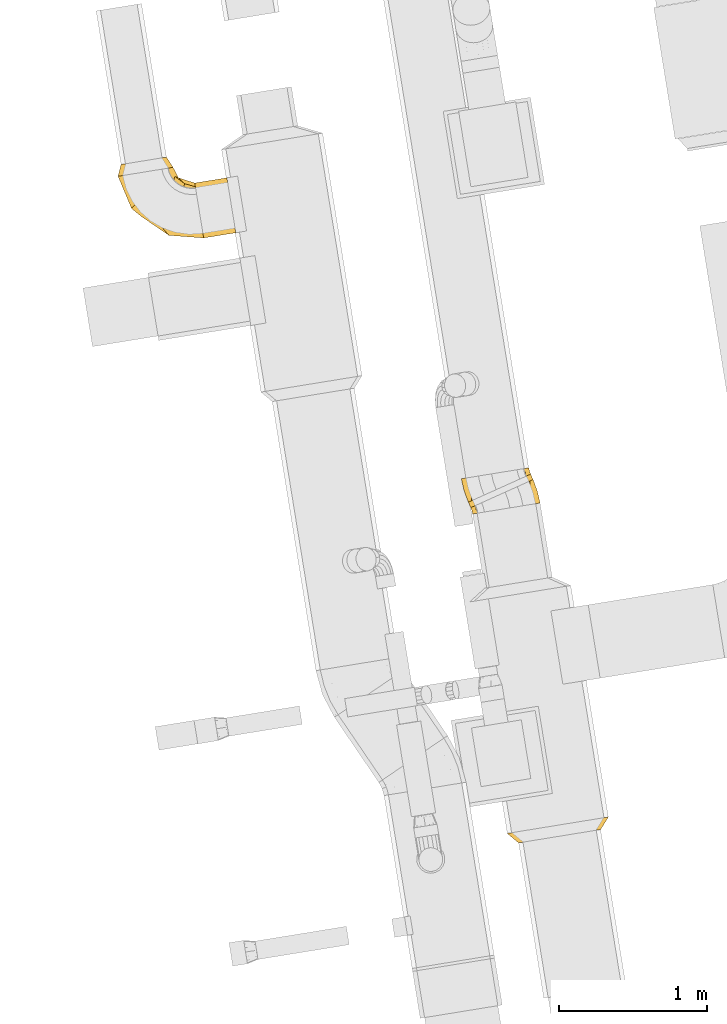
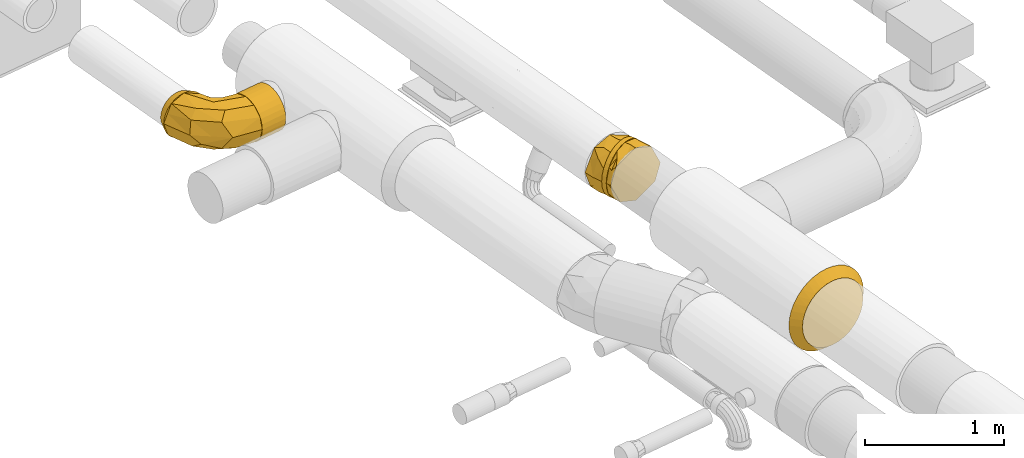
# One storey, part 10 of 39: 7 coverings.
"""IFC2X3 building model written with IfcOpenShell, lengths in millimetres."""

from ifc_helpers import new_model, entity, si_unit, converted_unit, derived_unit, direction, frame, origin, origin_with_axes, place, context, subcontext, project, spatial, faceted_brep, type_object, element, save


model = new_model("IFC2X3")

# Units and contexts
plan_context = context("Plan", 3, precision=1e-05, world=origin_with_axes())
model_context = context("Model", 3, precision=0.01, world=origin(), true_north=direction((6.12323399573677e-17, 1.0)))
body_context = subcontext(model_context, "Body", "Model", "MODEL_VIEW")
ifc_project = project(units=[converted_unit("PLANEANGLEUNIT", "DEGREE", entity("IfcPositiveLengthMeasure", 0.0174532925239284), si_unit("PLANEANGLEUNIT", "RADIAN"), dimensions=[0, 0, 0, 0, 0, 0, 0]), si_unit("AREAUNIT", "SQUARE_METRE"), si_unit("LENGTHUNIT", "METRE", prefix="MILLI"), si_unit("MASSUNIT", "GRAM", prefix="KILO"), si_unit("POWERUNIT", "WATT"), si_unit("PRESSUREUNIT", "PASCAL", prefix="KILO"), si_unit("FORCEUNIT", "NEWTON", prefix="KILO"), si_unit("ELECTRICVOLTAGEUNIT", "VOLT"), si_unit("ELECTRICCURRENTUNIT", "AMPERE"), si_unit("THERMODYNAMICTEMPERATUREUNIT", "DEGREE_CELSIUS"), si_unit("TIMEUNIT", "SECOND"), si_unit("VOLUMEUNIT", "CUBIC_METRE"), derived_unit("LINEARVELOCITYUNIT", [(si_unit("LENGTHUNIT", "METRE"), 1), (si_unit("TIMEUNIT", "SECOND"), -1)]), derived_unit("VOLUMETRICFLOWRATEUNIT", [(si_unit("VOLUMEUNIT", "CUBIC_METRE"), 1), (si_unit("TIMEUNIT", "SECOND"), -1)]), derived_unit("THERMALTRANSMITTANCEUNIT", [(si_unit("POWERUNIT", "WATT"), 1), (si_unit("THERMODYNAMICTEMPERATUREUNIT", "KELVIN"), -1), (si_unit("AREAUNIT", "SQUARE_METRE"), -1)]), derived_unit("SOUNDPRESSUREUNIT", [(si_unit("PRESSUREUNIT", "PASCAL"), 1)])], contexts=[model_context, plan_context])

# Site, building, storey
site_placement = place(None, frame((-0.00071070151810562, 0.00438415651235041, 0.0), z_axis=(0.0, 0.0, 1.0), x_axis=(-0.160236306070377, 0.987078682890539, 0.0)))
site = spatial("IfcSite", under=ifc_project, at=site_placement, Name="Default", CompositionType="ELEMENT")
building_placement = place(site_placement, origin_with_axes())
building = spatial("IfcBuilding", under=site, at=building_placement, CompositionType="ELEMENT")
storey_placement = place(building_placement, frame((0.0, 0.0, 58999.9999999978), z_axis=(0.0, 0.0, 1.0), x_axis=(1.0, 0.0, 0.0)))
storey = spatial("IfcBuildingStorey", under=building, at=storey_placement, Name="Nivå F", CompositionType="ELEMENT", Elevation=58999.9999999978)

# Coverings
covering_type_1 = type_object("IfcCoveringType", Name="Duct Insulation:MuT030", PredefinedType="INSULATION")
covering_1_placement = place(storey_placement, frame((772049.369644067, -503686.603887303, 2783.40426923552), z_axis=(0.0, 0.0, 1.0), x_axis=(1.0, 0.0, 0.0)))
element("IfcCovering", 1, at=covering_1_placement, inside=storey, type_object=covering_type_1, Name="Duct Insulation:MuT030", ObjectType="Duct Insulation:MuT030", PredefinedType="INSULATION", context=body_context, shape_type="Brep", body=[
    faceted_brep([(75.0, 406.503893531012, 686.353947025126), (75.0, 346.595272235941, 691.595272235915), (75.0, 286.686650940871, 686.353947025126), (75.0, 228.598322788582, 670.789226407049), (75.0, 174.095272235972, 645.374036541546), (75.0, 124.833546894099, 610.880605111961), (75.0, 82.3099393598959, 568.356997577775), (75.0, 47.8165079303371, 519.09527223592), (75.0, 22.4013180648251, 464.592221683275), (75.0, 6.83659744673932, 406.503893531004), (75.0, 1.59527223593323, 346.595272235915), (75.0, 6.83659744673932, 286.686650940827), (75.0, 22.4013180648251, 228.598322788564), (75.0, 47.8165079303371, 174.09527223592), (75.0, 82.3099393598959, 124.833546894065), (75.0, 124.833546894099, 82.3099393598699), (75.0, 174.095272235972, 47.8165079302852), (75.0, 228.598322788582, 22.4013180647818), (75.0, 286.686650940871, 6.83659744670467), (75.0, 346.595272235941, 1.5952722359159), (75.0, 406.503893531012, 6.83659744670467), (75.0, 464.592221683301, 22.4013180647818), (75.0, 519.095272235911, 47.8165079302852), (75.0, 568.356997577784, 82.3099393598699), (75.0, 610.880605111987, 124.833546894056), (75.0, 645.374036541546, 174.09527223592), (75.0, 670.789226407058, 228.598322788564), (75.0, 686.353947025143, 286.686650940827), (75.0, 691.59527223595, 346.595272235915), (75.0, 686.353947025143, 406.503893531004), (75.0, 670.789226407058, 464.592221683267), (75.0, 645.374036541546, 519.095272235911), (75.0, 610.880605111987, 568.356997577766), (75.0, 568.356997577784, 610.880605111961), (75.0, 519.095272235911, 645.374036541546), (75.0, 464.592221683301, 670.789226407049), (0.0, 453.746633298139, 605.28154133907), (0.0, 502.154937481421, 579.406763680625), (0.0, 544.585170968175, 544.585170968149), (0.0, 579.406763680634, 502.154937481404), (0.0, 605.281541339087, 453.746633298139), (0.0, 621.215150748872, 401.220562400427), (0.0, 626.595272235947, 346.595272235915), (0.0, 621.215150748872, 291.969982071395), (0.0, 605.281541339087, 239.443911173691), (0.0, 579.406763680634, 191.035606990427), (0.0, 544.585170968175, 148.605373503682), (0.0, 502.154937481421, 113.783780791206), (0.0, 453.746633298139, 87.9090031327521), (0.0, 401.220562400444, 71.9753937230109), (0.0, 346.595272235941, 66.5952722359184), (0.0, 291.969982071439, 71.9753937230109), (0.0, 239.443911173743, 87.9090031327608), (0.0, 191.035606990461, 113.783780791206), (0.0, 148.605373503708, 148.605373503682), (0.0, 113.783780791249, 191.035606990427), (0.0, 87.9090031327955, 239.443911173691), (0.0, 71.9753937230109, 291.969982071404), (0.0, 66.5952722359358, 346.595272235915), (0.0, 71.9753937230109, 401.220562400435), (0.0, 87.9090031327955, 453.746633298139), (0.0, 113.783780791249, 502.154937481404), (0.0, 148.605373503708, 544.585170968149), (0.0, 191.035606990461, 579.406763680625), (0.0, 239.443911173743, 605.281541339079), (0.0, 291.969982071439, 621.21515074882), (0.0, 346.595272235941, 626.595272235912), (0.0, 401.220562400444, 621.21515074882)], [[[0, 1, 2, 3, 4, 5, 6, 7, 8, 9, 10, 11, 12, 13, 14, 15, 16, 17, 18, 19, 20, 21, 22, 23, 24, 25, 26, 27, 28, 29, 30, 31, 32, 33, 34, 35]], [[36, 37, 38, 39, 40, 41, 42, 43, 44, 45, 46, 47, 48, 49, 50, 51, 52, 53, 54, 55, 56, 57, 58, 59, 60, 61, 62, 63, 64, 65, 66, 67]], [[11, 58, 57]], [[57, 56, 12]], [[55, 13, 56]], [[10, 58, 11]], [[57, 12, 11]], [[13, 12, 56]], [[55, 14, 13]], [[55, 54, 14]], [[15, 54, 53]], [[17, 52, 51]], [[53, 52, 16]], [[18, 51, 50]], [[15, 53, 16]], [[52, 17, 16]], [[51, 18, 17]], [[19, 18, 50]], [[54, 15, 14]], [[20, 50, 49]], [[49, 48, 21]], [[47, 22, 48]], [[19, 50, 20]], [[49, 21, 20]], [[22, 21, 48]], [[47, 23, 22]], [[47, 46, 23]], [[24, 46, 45]], [[26, 44, 43]], [[45, 44, 25]], [[27, 43, 42]], [[24, 45, 25]], [[44, 26, 25]], [[43, 27, 26]], [[28, 27, 42]], [[46, 24, 23]], [[29, 42, 41]], [[41, 40, 30]], [[39, 31, 40]], [[28, 42, 29]], [[41, 30, 29]], [[31, 30, 40]], [[39, 32, 31]], [[39, 38, 32]], [[33, 38, 37]], [[35, 36, 67]], [[37, 36, 34]], [[0, 67, 66]], [[33, 37, 34]], [[36, 35, 34]], [[67, 0, 35]], [[1, 0, 66]], [[38, 33, 32]], [[2, 66, 65]], [[65, 64, 3]], [[63, 4, 64]], [[1, 66, 2]], [[65, 3, 2]], [[4, 3, 64]], [[63, 5, 4]], [[63, 62, 5]], [[6, 62, 61]], [[8, 60, 59]], [[61, 60, 7]], [[9, 59, 58]], [[6, 61, 7]], [[60, 8, 7]], [[59, 9, 8]], [[10, 9, 58]], [[62, 6, 5]]]),
])
covering_2_placement = place(storey_placement, frame((774327.668016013, -503550.137157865, 2898.40472776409), z_axis=(0.0, 0.0, 1.0), x_axis=(1.0, 0.0, 0.0)))
element("IfcCovering", 2, at=covering_2_placement, inside=storey, type_object=covering_type_1, Name="Duct Insulation:MuT030", ObjectType="Duct Insulation:MuT030", PredefinedType="INSULATION", context=body_context, shape_type="Brep", body=[
    faceted_brep([(14.5824907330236, 397.452193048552, 374.997926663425), (7.49043513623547, 423.920104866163, 331.388532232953), (3.08777301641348, 440.351063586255, 282.77508704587), (1.59527223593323, 445.921152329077, 231.595272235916), (3.08777301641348, 440.351063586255, 180.415457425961), (7.49043513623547, 423.920104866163, 131.802012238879), (14.5824907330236, 397.452193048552, 88.1926178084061), (24.0083145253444, 362.274539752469, 51.774031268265), (35.2952563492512, 320.151099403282, 24.3724326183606), (47.8773418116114, 273.194117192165, 7.36185243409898), (61.1236526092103, 223.758212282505, 1.5952722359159), (74.3699634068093, 174.322307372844, 7.36185243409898), (86.9520488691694, 127.365325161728, 24.3724326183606), (98.2389906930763, 85.2418848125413, 51.774031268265), (107.664814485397, 50.0642315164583, 88.1926178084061), (114.756870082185, 23.5963196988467, 131.802012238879), (119.159532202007, 7.16536097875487, 180.415457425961), (120.652032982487, 1.59527223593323, 231.595272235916), (119.159532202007, 7.16536097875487, 282.77508704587), (114.756870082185, 23.5963196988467, 331.388532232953), (107.664814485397, 50.0642315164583, 374.997926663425), (98.2389906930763, 85.2418848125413, 411.416513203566), (86.9520488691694, 127.365325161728, 438.818111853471), (74.3699634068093, 174.322307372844, 455.828692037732), (61.1236526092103, 223.758212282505, 461.595272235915), (47.8773418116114, 273.194117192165, 455.828692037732), (35.2952563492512, 320.151099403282, 438.818111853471), (24.0083145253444, 362.274539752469, 411.416513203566), (41.8502505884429, 450.73743814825, 282.77508704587), (46.2529127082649, 434.306479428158, 331.388532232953), (53.344968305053, 407.838567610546, 374.997926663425), (62.7707920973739, 372.660914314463, 411.416513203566), (74.0577339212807, 330.537473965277, 438.818111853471), (86.6398193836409, 283.58049175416, 455.828692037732), (99.8861301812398, 234.1445868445, 461.595272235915), (113.132440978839, 184.708681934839, 455.828692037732), (125.714526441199, 137.751699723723, 438.818111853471), (137.001468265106, 95.6282593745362, 411.416513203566), (146.427292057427, 60.4506060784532, 374.997926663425), (153.519347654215, 33.9826942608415, 331.388532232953), (157.922009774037, 17.5517355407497, 282.77508704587), (159.414510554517, 11.9816467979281, 231.595272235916), (157.922009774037, 17.5517355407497, 180.415457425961), (153.519347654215, 33.9826942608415, 131.802012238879), (146.427292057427, 60.4506060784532, 88.1926178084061), (137.001468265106, 95.6282593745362, 51.774031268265), (125.714526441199, 137.751699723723, 24.3724326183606), (113.132440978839, 184.708681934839, 7.36185243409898), (99.8861301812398, 234.1445868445, 1.5952722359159), (86.6398193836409, 283.58049175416, 7.36185243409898), (74.0577339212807, 330.537473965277, 24.3724326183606), (62.7707920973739, 372.660914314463, 51.774031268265), (53.344968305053, 407.838567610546, 88.1926178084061), (46.2529127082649, 434.306479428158, 131.802012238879), (41.8502505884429, 450.73743814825, 180.415457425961), (40.3577498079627, 456.307526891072, 231.595272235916)], [[[0, 1, 2, 3, 4, 5, 6, 7, 8, 9, 10, 11, 12, 13, 14, 15, 16, 17, 18, 19, 20, 21, 22, 23, 24, 25, 26, 27]], [[28, 29, 30, 31, 32, 33, 34, 35, 36, 37, 38, 39, 40, 41, 42, 43, 44, 45, 46, 47, 48, 49, 50, 51, 52, 53, 54, 55]], [[3, 55, 54, 4]], [[54, 53, 5, 4]], [[52, 6, 5, 53]], [[52, 51, 7, 6]], [[7, 51, 50, 8]], [[50, 49, 9, 8]], [[48, 10, 9, 49]], [[10, 48, 47, 11]], [[47, 46, 12, 11]], [[45, 13, 12, 46]], [[45, 44, 14, 13]], [[44, 43, 15, 14]], [[42, 41, 17, 16]], [[43, 42, 16, 15]], [[17, 41, 40, 18]], [[40, 39, 19, 18]], [[38, 20, 19, 39]], [[38, 37, 21, 20]], [[21, 37, 36, 22]], [[35, 34, 24, 23]], [[23, 22, 36, 35]], [[24, 34, 33, 25]], [[33, 32, 26, 25]], [[31, 27, 26, 32]], [[31, 30, 0, 27]], [[0, 30, 29, 1]], [[1, 29, 28, 2]], [[2, 28, 55, 3]]]),
])
covering_3_placement = place(storey_placement, frame((774283.668778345, -503571.603887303, 2898.40472776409), z_axis=(0.0, 0.0, 1.0), x_axis=(1.0, 0.0, 0.0)))
element("IfcCovering", 3, at=covering_3_placement, inside=storey, type_object=covering_type_1, Name="Duct Insulation:MuT030", ObjectType="Duct Insulation:MuT030", PredefinedType="INSULATION", context=body_context, shape_type="Brep", body=[
    faceted_brep([(164.651270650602, 23.0620016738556, 231.595272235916), (155.526356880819, 57.1166434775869, 109.223875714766), (130.950288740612, 148.835778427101, 24.3705761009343), (105.122890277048, 245.224941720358, 1.5952722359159), (73.4508422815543, 363.426634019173, 36.8512317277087), (51.4891923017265, 445.38862756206, 131.805867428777), (45.5945099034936, 467.38788176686, 231.595272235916), (54.7194236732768, 433.333239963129, 353.966668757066), (79.2954918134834, 341.614105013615, 438.819968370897), (105.122890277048, 245.224941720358, 461.595272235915), (136.794938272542, 127.023249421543, 426.339312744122), (158.756588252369, 45.0612558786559, 331.384677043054), (1.59527223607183, 231.595272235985, 461.595272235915), (1.59527223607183, 321.505892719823, 418.296599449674), (1.59527223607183, 411.416513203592, 374.997926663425), (1.59527223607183, 443.107749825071, 284.429575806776), (1.59527223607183, 461.595272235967, 231.595272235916), (1.59527223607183, 418.296599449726, 141.684651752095), (1.59527223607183, 374.997926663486, 51.774031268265), (1.59527223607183, 231.595272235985, 1.5952722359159), (1.59527223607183, 141.684651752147, 44.8939450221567), (1.59527223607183, 51.7740312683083, 88.1926178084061), (1.59527223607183, 1.59527223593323, 231.595272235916), (1.59527223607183, 49.7312251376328, 331.55060838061), (1.59527223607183, 88.1926178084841, 411.416513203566), (80.9048959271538, 56.9885571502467, 374.705297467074), (64.319530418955, 122.692639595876, 432.061311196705), (83.8267733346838, 6.98500957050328, 231.595272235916), (53.8057491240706, 235.017327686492, 461.595272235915), (39.183131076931, 370.627732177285, 416.829081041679), (23.7847249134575, 463.049645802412, 231.595272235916), (25.1322068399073, 434.910275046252, 341.739115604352), (35.8201847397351, 392.865655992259, 65.242735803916), (32.2586602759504, 320.046282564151, 18.6622986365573), (53.8057491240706, 235.017327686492, 1.5952722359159), (80.374581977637, 77.6189153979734, 65.933387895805), (65.6469738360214, 23.6430912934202, 140.792599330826)], [[[0, 1, 2, 3, 4, 5, 6, 7, 8, 9, 10, 11]], [[12, 13, 14, 15, 16, 17, 18, 19, 20, 21, 22, 23, 24]], [[10, 25, 11]], [[24, 25, 26]], [[23, 25, 24]], [[12, 24, 26]], [[25, 27, 11]], [[9, 26, 10]], [[27, 0, 11]], [[23, 22, 27]], [[9, 28, 26]], [[27, 25, 23]], [[25, 10, 26]], [[12, 26, 28]], [[28, 8, 29]], [[6, 30, 31]], [[29, 14, 13]], [[30, 16, 15]], [[29, 13, 28]], [[31, 7, 6]], [[28, 9, 8]], [[29, 31, 14]], [[13, 12, 28]], [[15, 31, 30]], [[7, 31, 29]], [[31, 15, 14]], [[29, 8, 7]], [[18, 32, 33]], [[19, 33, 34]], [[30, 5, 17]], [[19, 18, 33]], [[5, 32, 17]], [[30, 6, 5]], [[16, 30, 17]], [[33, 4, 34]], [[4, 33, 32]], [[3, 34, 4]], [[4, 32, 5]], [[32, 18, 17]], [[21, 35, 36]], [[1, 0, 36]], [[22, 21, 36]], [[2, 35, 20]], [[34, 3, 2]], [[34, 2, 20]], [[27, 36, 0]], [[22, 36, 27]], [[19, 34, 20]], [[35, 2, 1]], [[35, 21, 20]], [[1, 36, 35]]]),
])
covering_4_placement = place(storey_placement, frame((774366.430493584, -503539.750783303, 2898.40472776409), z_axis=(0.0, 0.0, 1.0), x_axis=(1.0, 0.0, 0.0)))
element("IfcCovering", 4, at=covering_4_placement, inside=storey, type_object=covering_type_1, Name="Duct Insulation:MuT030", ObjectType="Duct Insulation:MuT030", PredefinedType="INSULATION", context=body_context, shape_type="Brep", body=[
    faceted_brep([(1.59527223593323, 445.921152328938, 231.595272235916), (10.7201860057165, 411.866510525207, 109.223875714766), (35.296254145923, 320.147375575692, 24.3705761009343), (61.1236526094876, 223.758212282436, 1.5952722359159), (92.7957006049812, 105.556519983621, 36.8512317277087), (114.757350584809, 23.5945264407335, 131.805867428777), (120.652032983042, 1.59527223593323, 231.595272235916), (111.527119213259, 35.6499140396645, 353.966668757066), (86.9510510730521, 127.369048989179, 438.819968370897), (61.1236526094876, 223.758212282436, 461.595272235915), (29.4516046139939, 341.95990458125, 426.339312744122), (7.48995463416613, 423.921898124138, 331.384677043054), (164.651270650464, 237.387881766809, 461.595272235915), (164.651270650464, 147.477261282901, 418.296599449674), (164.651270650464, 57.5666407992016, 374.997926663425), (164.651270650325, 25.8754041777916, 284.429575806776), (164.651270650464, 7.38788176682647, 231.595272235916), (164.651270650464, 50.6865545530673, 141.684651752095), (164.651270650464, 93.985227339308, 51.774031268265), (164.651270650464, 237.387881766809, 1.5952722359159), (164.651270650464, 327.298502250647, 44.8939450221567), (164.651270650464, 417.209122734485, 88.1926178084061), (164.651270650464, 467.38788176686, 231.595272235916), (164.651270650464, 419.251928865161, 331.55060838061), (164.651270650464, 380.79053619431, 411.416513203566), (85.3416469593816, 411.994596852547, 374.705297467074), (101.92701246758, 346.290514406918, 432.061311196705), (82.4197695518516, 461.99814443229, 231.595272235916), (112.440793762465, 233.965826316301, 461.595272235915), (127.063411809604, 98.3554218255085, 416.829081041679), (142.461817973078, 5.93350820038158, 231.595272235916), (141.114336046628, 34.0728789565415, 341.739115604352), (130.4263581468, 76.1174980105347, 65.242735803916), (133.987882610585, 148.936871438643, 18.6622986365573), (112.440793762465, 233.965826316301, 1.5952722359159), (85.8719609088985, 391.36423860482, 65.933387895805), (100.599569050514, 445.340062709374, 140.792599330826)], [[[0, 1, 2, 3, 4, 5, 6, 7, 8, 9, 10, 11]], [[12, 13, 14, 15, 16, 17, 18, 19, 20, 21, 22, 23, 24]], [[10, 25, 11]], [[24, 25, 26]], [[23, 25, 24]], [[12, 24, 26]], [[25, 27, 11]], [[9, 26, 10]], [[27, 0, 11]], [[23, 22, 27]], [[9, 28, 26]], [[27, 25, 23]], [[25, 10, 26]], [[12, 26, 28]], [[28, 8, 29]], [[6, 30, 31]], [[29, 14, 13]], [[30, 16, 15]], [[29, 13, 28]], [[31, 7, 6]], [[28, 9, 8]], [[29, 31, 14]], [[13, 12, 28]], [[15, 31, 30]], [[7, 31, 29]], [[31, 15, 14]], [[29, 8, 7]], [[18, 32, 33]], [[19, 33, 34]], [[30, 5, 17]], [[19, 18, 33]], [[5, 32, 17]], [[30, 6, 5]], [[16, 30, 17]], [[33, 4, 34]], [[4, 33, 32]], [[3, 34, 4]], [[4, 32, 5]], [[32, 18, 17]], [[21, 35, 36]], [[1, 0, 36]], [[22, 21, 36]], [[2, 35, 20]], [[34, 3, 2]], [[34, 2, 20]], [[27, 36, 0]], [[22, 36, 27]], [[19, 34, 20]], [[35, 2, 1]], [[35, 21, 20]], [[1, 36, 35]]]),
])
covering_type_2 = type_object("IfcCoveringType", Name="Duct Insulation:EI 60-30", PredefinedType="INSULATION")
covering_5_placement = place(storey_placement, frame((776408.126843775, -501838.834706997, 2940.90472776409), z_axis=(0.0, 0.0, 1.0), x_axis=(1.0, 0.0, 0.0)))
element("IfcCovering", 5, at=covering_5_placement, inside=storey, type_object=covering_type_2, Name="Duct Insulation:EI 60-30", ObjectType="Duct Insulation:EI 60-30", PredefinedType="INSULATION", context=body_context, shape_type="Brep", body=[
    faceted_brep([(147.372597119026, 219.12508946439, 371.894255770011), (189.095272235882, 219.12508946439, 376.595272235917), (230.817947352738, 219.12508946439, 371.894255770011), (270.448473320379, 219.12508946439, 358.026934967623), (305.999610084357, 219.12508946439, 335.688675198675), (335.688675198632, 219.12508946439, 305.999610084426), (358.026934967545, 219.12508946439, 270.448473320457), (371.89425576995, 219.12508946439, 230.817947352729), (376.595272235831, 219.12508946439, 189.095272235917), (371.89425576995, 219.12508946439, 147.372597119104), (358.026934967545, 219.12508946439, 107.742071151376), (335.688675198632, 219.12508946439, 72.1909343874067), (305.999610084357, 219.12508946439, 42.5018692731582), (270.448473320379, 219.12508946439, 20.1636095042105), (230.817947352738, 219.12508946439, 6.29628870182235), (189.095272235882, 219.12508946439, 1.5952722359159), (147.372597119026, 219.12508946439, 6.29628870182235), (107.742071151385, 219.12508946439, 20.1636095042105), (72.1909343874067, 219.12508946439, 42.5018692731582), (42.5018692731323, 219.12508946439, 72.1909343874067), (20.1636095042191, 219.12508946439, 107.742071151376), (6.29628870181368, 219.12508946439, 147.372597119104), (1.59527223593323, 219.12508946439, 189.095272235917), (6.29628870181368, 219.12508946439, 230.817947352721), (20.1636095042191, 219.12508946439, 270.448473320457), (42.5018692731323, 219.12508946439, 305.999610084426), (72.1909343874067, 219.12508946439, 335.688675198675), (107.742071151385, 219.12508946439, 358.026934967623), (107.742071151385, 0.0, 358.026934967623), (72.1909343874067, 0.0, 335.688675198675), (42.5018692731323, 0.0, 305.999610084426), (20.1636095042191, 0.0, 270.448473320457), (6.29628870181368, 0.0, 230.817947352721), (1.59527223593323, 0.0, 189.095272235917), (6.29628870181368, 0.0, 147.372597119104), (20.1636095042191, 0.0, 107.742071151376), (42.5018692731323, 0.0, 72.1909343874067), (72.1909343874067, 0.0, 42.5018692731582), (107.742071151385, 0.0, 20.1636095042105), (147.372597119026, 0.0, 6.29628870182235), (189.095272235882, 0.0, 1.5952722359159), (230.817947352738, 0.0, 6.29628870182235), (270.448473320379, 0.0, 20.1636095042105), (305.999610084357, 0.0, 42.5018692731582), (335.688675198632, 0.0, 72.1909343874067), (358.026934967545, 0.0, 107.742071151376), (371.89425576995, 0.0, 147.372597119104), (376.595272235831, 0.0, 189.095272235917), (371.89425576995, 0.0, 230.817947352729), (358.026934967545, 0.0, 270.448473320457), (335.688675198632, 0.0, 305.999610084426), (305.999610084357, 0.0, 335.688675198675), (270.448473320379, 0.0, 358.026934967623), (230.817947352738, 0.0, 371.894255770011), (189.095272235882, 0.0, 376.595272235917), (147.372597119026, 0.0, 371.894255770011)], [[[0, 1, 2, 3, 4, 5, 6, 7, 8, 9, 10, 11, 12, 13, 14, 15, 16, 17, 18, 19, 20, 21, 22, 23, 24, 25, 26, 27]], [[28, 29, 30, 31, 32, 33, 34, 35, 36, 37, 38, 39, 40, 41, 42, 43, 44, 45, 46, 47, 48, 49, 50, 51, 52, 53, 54, 55]], [[47, 46, 9, 8]], [[45, 44, 11, 10]], [[46, 45, 10, 9]], [[44, 43, 12, 11]], [[13, 12, 43, 42]], [[14, 13, 42, 41]], [[15, 14, 41, 40]], [[16, 15, 40, 39]], [[17, 16, 39, 38]], [[18, 17, 38, 37]], [[37, 36, 19, 18]], [[20, 19, 36, 35]], [[21, 20, 35, 34]], [[22, 21, 34, 33]], [[23, 22, 33, 32]], [[24, 23, 32, 31]], [[25, 24, 31, 30]], [[30, 29, 26, 25]], [[27, 26, 29, 28]], [[0, 27, 28, 55]], [[1, 0, 55, 54]], [[2, 1, 54, 53]], [[3, 2, 53, 52]], [[4, 3, 52, 51]], [[51, 50, 5, 4]], [[6, 5, 50, 49]], [[7, 6, 49, 48]], [[8, 7, 48, 47]]]),
])
covering_6_placement = place(storey_placement, frame((776408.126843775, -501621.304889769, 2940.90472776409), z_axis=(0.0, 0.0, 1.0), x_axis=(1.0, 0.0, 0.0)))
element("IfcCovering", 6, at=covering_6_placement, inside=storey, type_object=covering_type_2, Name="Duct Insulation:EI 60-30", ObjectType="Duct Insulation:EI 60-30", PredefinedType="INSULATION", context=body_context, shape_type="Brep", body=[
    faceted_brep([(189.095272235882, 1.59527223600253, 376.595272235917), (95.3468095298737, 1.59527223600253, 351.475922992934), (26.7172217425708, 1.59527223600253, 282.848238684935), (1.59527223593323, 1.59527223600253, 189.095272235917), (26.7146214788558, 1.59527223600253, 95.346809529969), (95.342305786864, 1.59527223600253, 26.7172217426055), (142.218789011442, 1.59527223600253, 14.1562469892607), (189.095272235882, 1.59527223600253, 1.5952722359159), (282.84373494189, 1.59527223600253, 26.7146214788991), (351.473322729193, 1.59527223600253, 95.3423057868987), (376.595272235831, 1.59527223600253, 189.095272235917), (351.475922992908, 1.59527223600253, 282.843734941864), (282.8482386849, 1.59527223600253, 351.473322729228), (504.095272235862, 316.595272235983, 376.595272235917), (504.095272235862, 249.584609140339, 344.324637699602), (504.095272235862, 170.001869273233, 305.999610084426), (504.095272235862, 149.548570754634, 247.547441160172), (504.095272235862, 129.095272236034, 189.095272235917), (504.095272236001, 166.422898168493, 111.583658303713), (504.095272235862, 199.690934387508, 42.5018692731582), (504.095272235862, 247.373836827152, 25.8169000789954), (504.095272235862, 316.595272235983, 1.5952722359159), (504.095272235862, 389.891973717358, 36.8931033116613), (504.095272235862, 463.188675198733, 72.1909343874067), (504.095272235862, 504.095272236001, 189.095272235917), (504.095272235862, 468.797441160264, 262.391973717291), (504.095272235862, 433.499610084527, 335.688675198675), (275.965046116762, 449.326050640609, 189.095272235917), (297.312330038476, 421.475151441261, 297.428260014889), (321.724769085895, 354.478556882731, 357.605602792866), (281.356636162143, 224.333908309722, 376.595272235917), (351.667595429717, 253.45766122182, 376.595272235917), (421.978554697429, 282.581414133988, 376.595272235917), (129.084166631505, 274.042346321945, 303.528100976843), (166.16476997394, 339.525774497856, 189.095272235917), (169.364784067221, 209.563900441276, 359.105052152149), (56.3644938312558, 229.725498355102, 189.095272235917), (223.109133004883, 83.7119962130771, 376.595272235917), (252.232884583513, 154.022952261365, 376.595272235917), (382.43060474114, 68.7346977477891, 253.642235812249), (421.764890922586, 226.186923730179, 360.593319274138), (441.392609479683, 126.459216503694, 255.686288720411), (429.152652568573, 104.744939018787, 189.095272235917), (402.40642175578, 146.514576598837, 316.069916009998), (313.497188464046, 110.2569666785, 350.390946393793), (351.912156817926, 189.023092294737, 361.559298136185), (421.978554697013, 282.581414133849, 1.5952722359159), (351.667595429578, 253.45766122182, 1.5952722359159), (311.734659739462, 94.1381974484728, 31.4670636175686), (382.429742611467, 68.7355380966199, 124.545142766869), (385.558604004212, 159.485479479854, 43.0318262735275), (281.356636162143, 224.333908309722, 1.5952722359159), (433.748255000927, 128.971871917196, 108.909319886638), (223.109133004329, 83.7119962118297, 1.5952722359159), (252.232884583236, 154.02295226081, 1.5952722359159), (302.781893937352, 402.514724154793, 57.5624639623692), (216.104690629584, 278.70918410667, 21.7979681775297), (214.101919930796, 395.341443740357, 119.264995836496), (129.073842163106, 274.031675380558, 74.6651446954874), (128.849786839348, 150.81205537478, 23.9700859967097)], [[[0, 1, 2, 3, 4, 5, 6, 7, 8, 9, 10, 11, 12]], [[13, 14, 15, 16, 17, 18, 19, 20, 21, 22, 23, 24, 25, 26]], [[25, 27, 28]], [[28, 29, 26]], [[29, 13, 26]], [[29, 30, 31, 32, 13]], [[33, 29, 28]], [[25, 24, 27]], [[28, 34, 33]], [[35, 29, 33]], [[36, 3, 2]], [[29, 35, 30]], [[35, 0, 37, 38, 30]], [[33, 2, 1]], [[0, 35, 1]], [[33, 1, 35]], [[28, 26, 25]], [[33, 36, 2]], [[34, 28, 27]], [[34, 36, 33]], [[11, 10, 39]], [[14, 13, 32]], [[40, 32, 31]], [[41, 39, 42]], [[40, 15, 14]], [[40, 14, 32]], [[37, 0, 12, 38]], [[40, 43, 15]], [[12, 44, 38]], [[42, 39, 10]], [[11, 44, 12]], [[40, 45, 43]], [[39, 44, 11]], [[16, 15, 41, 17]], [[45, 44, 43]], [[41, 15, 43]], [[44, 39, 43]], [[44, 30, 38]], [[45, 31, 30]], [[31, 45, 40]], [[44, 45, 30]], [[39, 41, 43]], [[17, 41, 42]], [[46, 21, 20, 19, 47]], [[48, 49, 9]], [[50, 51, 47]], [[9, 8, 48]], [[52, 17, 42]], [[52, 49, 50]], [[18, 50, 19]], [[8, 7, 53, 54]], [[48, 50, 49]], [[51, 50, 48]], [[49, 52, 42]], [[42, 10, 49]], [[8, 54, 48]], [[49, 10, 9]], [[51, 48, 54]], [[50, 18, 52]], [[17, 52, 18]], [[47, 19, 50]], [[55, 23, 22]], [[22, 21, 56]], [[24, 23, 27]], [[36, 57, 58]], [[58, 5, 4]], [[58, 55, 56]], [[7, 6, 5, 59]], [[23, 57, 27]], [[57, 36, 34, 27]], [[59, 51, 54, 53, 7]], [[36, 4, 3]], [[36, 58, 4]], [[57, 55, 58]], [[55, 57, 23]], [[22, 56, 55]], [[59, 58, 56]], [[56, 21, 46, 47, 51]], [[58, 59, 5]], [[59, 56, 51]]]),
])
covering_7_placement = place(storey_placement, frame((776912.222116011, -501493.804889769, 2940.90472776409), z_axis=(0.0, 0.0, 1.0), x_axis=(1.0, 0.0, 0.0)))
element("IfcCovering", 7, at=covering_7_placement, inside=storey, type_object=covering_type_2, Name="Duct Insulation:EI 60-30", ObjectType="Duct Insulation:EI 60-30", PredefinedType="INSULATION", context=body_context, shape_type="Brep", body=[
    faceted_brep([(75.0, 34.0952722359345, 189.095272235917), (75.0, 39.3767691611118, 148.978320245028), (75.0, 54.8613346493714, 111.595272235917), (75.0, 79.4937211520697, 79.4937211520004), (75.0, 111.595272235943, 54.8613346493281), (75.0, 148.978320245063, 39.3767691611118), (75.0, 189.095272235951, 34.0952722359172), (75.0, 229.21222422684, 39.3767691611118), (75.0, 266.59527223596, 54.8613346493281), (75.0, 298.696823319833, 79.4937211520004), (75.0, 323.329209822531, 111.595272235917), (75.0, 338.813775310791, 148.978320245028), (75.0, 344.095272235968, 189.095272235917), (75.0, 338.813775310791, 229.212224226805), (75.0, 323.329209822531, 266.595272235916), (75.0, 298.696823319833, 298.696823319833), (75.0, 266.59527223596, 323.329209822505), (75.0, 229.21222422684, 338.813775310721), (75.0, 189.095272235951, 344.095272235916), (75.0, 148.978320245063, 338.813775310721), (75.0, 111.595272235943, 323.329209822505), (75.0, 79.4937211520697, 298.696823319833), (75.0, 54.8613346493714, 266.595272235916), (75.0, 39.3767691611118, 229.212224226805), (0.0, 230.817947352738, 371.894255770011), (0.0, 270.448473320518, 358.026934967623), (0.0, 305.999610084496, 335.688675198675), (0.0, 335.688675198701, 305.999610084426), (0.0, 358.026934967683, 270.448473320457), (0.0, 371.894255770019, 230.817947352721), (0.0, 376.595272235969, 189.095272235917), (0.0, 371.894255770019, 147.372597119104), (0.0, 358.026934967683, 107.742071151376), (0.0, 335.688675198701, 72.1909343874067), (0.0, 305.999610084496, 42.5018692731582), (0.0, 270.448473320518, 20.1636095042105), (0.0, 230.817947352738, 6.29628870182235), (0.0, 189.095272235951, 1.5952722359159), (0.0, 147.372597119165, 6.29628870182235), (0.0, 107.742071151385, 20.1636095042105), (0.0, 72.1909343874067, 42.5018692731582), (0.0, 42.5018692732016, 72.1909343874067), (0.0, 20.1636095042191, 107.742071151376), (0.0, 6.29628870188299, 147.372597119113), (0.0, 1.59527223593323, 189.095272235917), (0.0, 6.29628870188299, 230.817947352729), (0.0, 20.1636095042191, 270.448473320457), (0.0, 42.5018692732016, 305.999610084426), (0.0, 72.1909343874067, 335.688675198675), (0.0, 107.742071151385, 358.026934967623), (0.0, 147.372597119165, 371.894255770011), (0.0, 189.095272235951, 376.595272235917)], [[[0, 1, 2, 3, 4, 5, 6, 7, 8, 9, 10, 11, 12, 13, 14, 15, 16, 17, 18, 19, 20, 21, 22, 23]], [[24, 25, 26, 27, 28, 29, 30, 31, 32, 33, 34, 35, 36, 37, 38, 39, 40, 41, 42, 43, 44, 45, 46, 47, 48, 49, 50, 51]], [[5, 4, 39]], [[6, 5, 38]], [[37, 6, 38]], [[40, 39, 4]], [[5, 39, 38]], [[4, 3, 40]], [[41, 3, 2]], [[1, 0, 43]], [[42, 2, 1]], [[42, 41, 2]], [[43, 42, 1]], [[0, 44, 43]], [[3, 41, 40]], [[11, 10, 32]], [[12, 11, 31]], [[30, 12, 31]], [[33, 32, 10]], [[11, 32, 31]], [[10, 9, 33]], [[34, 9, 8]], [[7, 6, 36]], [[35, 8, 7]], [[35, 34, 8]], [[36, 35, 7]], [[6, 37, 36]], [[9, 34, 33]], [[17, 16, 25]], [[18, 17, 24]], [[51, 18, 24]], [[26, 25, 16]], [[17, 25, 24]], [[16, 15, 26]], [[27, 15, 14]], [[13, 12, 29]], [[28, 14, 13]], [[28, 27, 14]], [[29, 28, 13]], [[12, 30, 29]], [[15, 27, 26]], [[23, 22, 46]], [[0, 23, 45]], [[44, 0, 45]], [[47, 46, 22]], [[23, 46, 45]], [[22, 21, 47]], [[48, 21, 20]], [[19, 18, 50]], [[49, 20, 19]], [[49, 48, 20]], [[50, 49, 19]], [[18, 51, 50]], [[21, 48, 47]]]),
])

save(model, "model.ifc")
